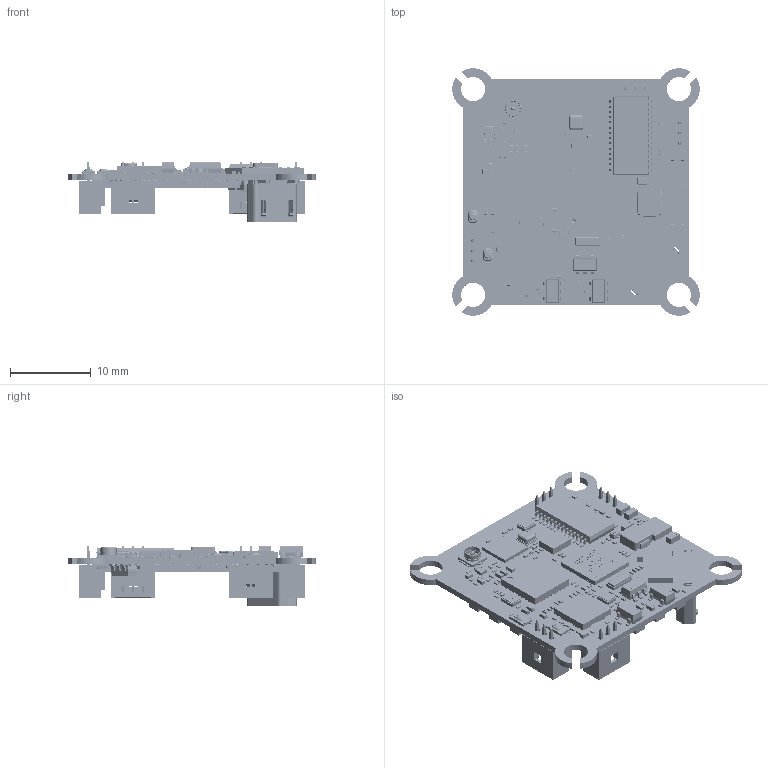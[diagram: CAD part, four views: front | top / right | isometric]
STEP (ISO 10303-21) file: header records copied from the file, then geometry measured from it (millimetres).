
FILE_DESCRIPTION(('Open CASCADE Model'),'2;1');
FILE_NAME('Open CASCADE Shape Model','2025-11-11T16:37:09',('Author'),( 'Open CASCADE'),'Open CASCADE STEP processor 7.5','Open CASCADE 7.5' ,'Unknown');
FILE_SCHEMA(('AUTOMOTIVE_DESIGN { 1 0 10303 214 1 1 1 1 }'));
Length unit declared in the file: millimetre
Products named in the file (473): PCB; Board; Open CASCADE STEP translator 7.5 3.1.1; C37B; 0402SMD CAPACITOR; Q1B; SOT-723; SOT-723_L1.2-W0.8-P0.40-LS1.2-BR; COMPOUND (2); Q1D; D13D; User Library-DIODE_SOD-923; User Library-SOD882-1; D13C; D13B; D13A; D12D; D12C; D12B; D12A; D8D; D8C; D8B; D8A; C40; 0603SMD CAPACITOR; R60; r0201v5; R59; Q8; C8; J6; MCRF; U12; User Library-SKY13351-378LF; R52; R58; R57; C39D; C0201_020 (1)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
Assembly tree (980 placements, depth 5):
  PCB
    Board
      Open CASCADE STEP translator 7.5 3.1.1
    C37B
      0402SMD CAPACITOR
    Q1B
      SOT-723
        SOT-723_L1.2-W0.8-P0.40-LS1.2-BR
          COMPOUND (2)
    Q1D
      SOT-723
        SOT-723_L1.2-W0.8-P0.40-LS1.2-BR
          COMPOUND (2)
    D13D
      User Library-DIODE_SOD-923
      User Library-SOD882-1
    D13C
      User Library-DIODE_SOD-923
      User Library-SOD882-1
    D13B
      User Library-DIODE_SOD-923
      User Library-SOD882-1
    D13A
      User Library-DIODE_SOD-923
      User Library-SOD882-1
    D12D
      User Library-DIODE_SOD-923
      User Library-SOD882-1
    D12C
      User Library-DIODE_SOD-923
      User Library-SOD882-1
    D12B
      User Library-DIODE_SOD-923
      User Library-SOD882-1
    D12A
      User Library-DIODE_SOD-923
      User Library-SOD882-1
    D8D
      User Library-DIODE_SOD-923
      User Library-SOD882-1
    D8C
      User Library-DIODE_SOD-923
      User Library-SOD882-1
    D8B
      User Library-DIODE_SOD-923
      User Library-SOD882-1
    D8A
      User Library-DIODE_SOD-923
      User Library-SOD882-1
    C40
      0603SMD CAPACITOR
    R60
      r0201v5
    R59
      r0201v5
    Q8
      SOT-723
        SOT-723_L1.2-W0.8-P0.40-LS1.2-BR
          COMPOUND (2)
    C8
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Bounding box: 30.69 x 30.69 x 7.44 mm (x, y, z)
Volume: 1275.6 mm3; surface area: 4954.1 mm2
Topology: 1325 solids, 1398 shells, 43415 faces, 113121 edges, 73026 vertices
Faces by surface type: plane 30826, bspline 5719, cylinder 5462, sphere 1356, torus 26, cone 24, revolution 2
Full cylindrical faces by diameter (mm): 0.15 x2, 0.2 x6, 0.375 x1, 0.5 x1, 0.6 x12, 0.625 x1, 0.7 x4, 0.75 x1
Entity records: 204261 total; most frequent: CARTESIAN_POINT 56371, ORIENTED_EDGE 25686, DIRECTION 24721, EDGE_CURVE 12934, LINE 9849, VECTOR 9849, VERTEX_POINT 8527, AXIS2_PLACEMENT_3D 7435
